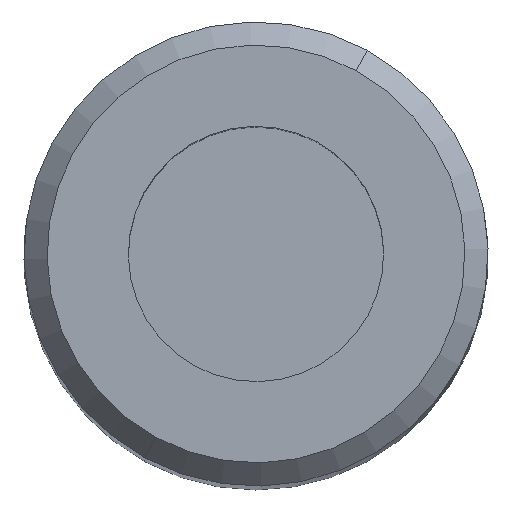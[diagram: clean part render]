
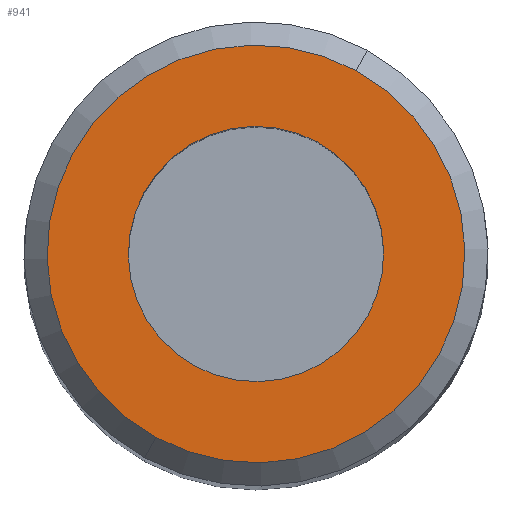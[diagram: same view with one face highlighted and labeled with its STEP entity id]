
A CAD part, top view. The second image highlights one B-rep face of the part: STEP entity #941.
In plain terms, the highlighted planar face has unit normal (0, 0, 1).
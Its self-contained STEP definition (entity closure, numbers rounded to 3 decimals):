
#885=AXIS2_PLACEMENT_3D('Circle Axis2P3D',#883,#884,$) ;
#904=AXIS2_PLACEMENT_3D('Circle Axis2P3D',#902,#903,$) ;
#917=AXIS2_PLACEMENT_3D('Plane Axis2P3D',#914,#915,#916) ;
#925=AXIS2_PLACEMENT_3D('Circle Axis2P3D',#923,#924,$) ;
#934=AXIS2_PLACEMENT_3D('Circle Axis2P3D',#932,#933,$) ;
#880=CARTESIAN_POINT('Vertex',(-4.315,-7.898,0.)) ;
#883=CARTESIAN_POINT('Axis2P3D Location',(0.,0.,0.)) ;
#887=CARTESIAN_POINT('Vertex',(4.315,7.898,0.)) ;
#902=CARTESIAN_POINT('Axis2P3D Location',(0.,0.,0.)) ;
#914=CARTESIAN_POINT('Axis2P3D Location',(0.,9.,0.)) ;
#923=CARTESIAN_POINT('Axis2P3D Location',(0.,0.,0.)) ;
#927=CARTESIAN_POINT('Vertex',(2.637,4.827,0.)) ;
#929=CARTESIAN_POINT('Vertex',(-2.637,-4.827,0.)) ;
#932=CARTESIAN_POINT('Axis2P3D Location',(0.,0.,0.)) ;
#884=DIRECTION('Axis2P3D Direction',(0.,0.,-1.)) ;
#903=DIRECTION('Axis2P3D Direction',(0.,0.,-1.)) ;
#915=DIRECTION('Axis2P3D Direction',(0.,0.,-1.)) ;
#916=DIRECTION('Axis2P3D XDirection',(1.,0.,0.)) ;
#924=DIRECTION('Axis2P3D Direction',(0.,0.,-1.)) ;
#933=DIRECTION('Axis2P3D Direction',(0.,0.,-1.)) ;
#920=ORIENTED_EDGE('',*,*,#889,.F.) ;
#921=ORIENTED_EDGE('',*,*,#906,.F.) ;
#938=ORIENTED_EDGE('',*,*,#931,.F.) ;
#939=ORIENTED_EDGE('',*,*,#936,.F.) ;
#940=FACE_BOUND('',#937,.T.) ;
#941=ADVANCED_FACE('NOCUT',(#922,#940),#918,.F.) ;
#886=CIRCLE('generated circle',#885,9.) ;
#905=CIRCLE('generated circle',#904,9.) ;
#926=CIRCLE('generated circle',#925,5.5) ;
#935=CIRCLE('generated circle',#934,5.5) ;
#889=EDGE_CURVE('',#881,#888,#886,.T.) ;
#906=EDGE_CURVE('',#888,#881,#905,.T.) ;
#931=EDGE_CURVE('',#928,#930,#926,.F.) ;
#936=EDGE_CURVE('',#930,#928,#935,.F.) ;
#919=EDGE_LOOP('',(#920,#921)) ;
#937=EDGE_LOOP('',(#938,#939)) ;
#922=FACE_OUTER_BOUND('',#919,.T.) ;
#918=PLANE('',#917) ;
#881=VERTEX_POINT('',#880) ;
#888=VERTEX_POINT('',#887) ;
#928=VERTEX_POINT('',#927) ;
#930=VERTEX_POINT('',#929) ;
